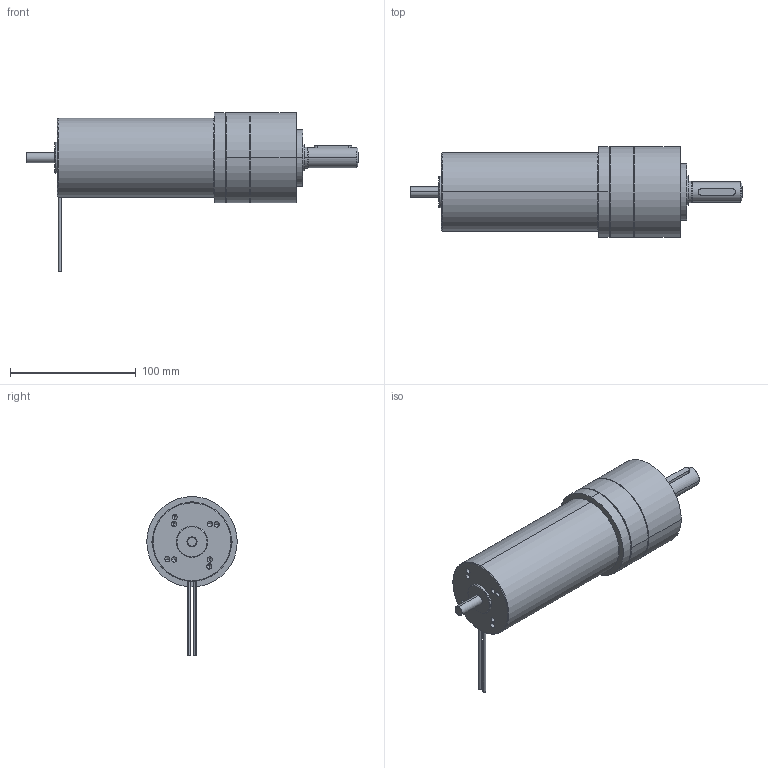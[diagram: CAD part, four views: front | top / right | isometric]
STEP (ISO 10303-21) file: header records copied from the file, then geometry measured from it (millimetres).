
FILE_DESCRIPTION (( 'STEP AP214' ), '1' );
FILE_NAME ('1-17-063-4xx_PM72_1st.STEP', '2020-11-23T09:24:30', ( '' ), ( '' ), 'SwSTEP 2.0', 'SolidWorks 2019', '' );
FILE_SCHEMA (( 'AUTOMOTIVE_DESIGN' ));
Length unit declared in the file: millimetre
Products named in the file (4): PM72-1etage; 7200738_Part; Motor bulher 1.17.063.402 ; 1-17-063-4xx_PM72_1st
Assembly tree (3 placements, depth 2):
  1-17-063-4xx_PM72_1st
    Motor bulher 1.17.063.402 
    7200738_Part
    PM72-1etage
Bounding box: 264.4 x 72 x 126.55 mm (x, y, z)
Volume: 432736.3 mm3; surface area: 140274.7 mm2
Topology: 2 solids, 37 shells, 836 faces, 2080 edges, 1314 vertices
Faces by surface type: cylinder 404, plane 253, cone 121, torus 58
Entity records: 28249 total; most frequent: CARTESIAN_POINT 6099, DIRECTION 4675, ORIENTED_EDGE 4040, EDGE_CURVE 2038, AXIS2_PLACEMENT_3D 1838, VERTEX_POINT 1314, LINE 999, VECTOR 999
